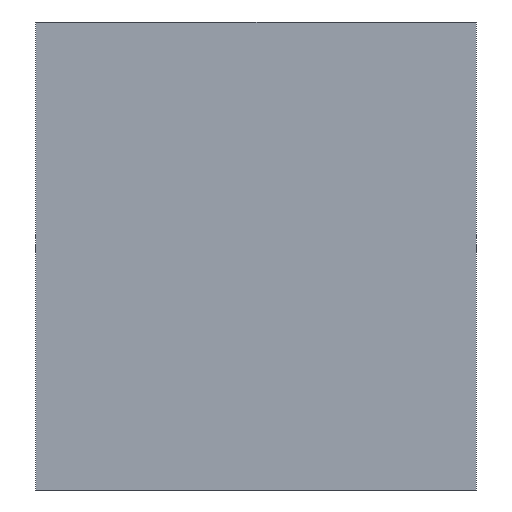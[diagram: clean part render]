
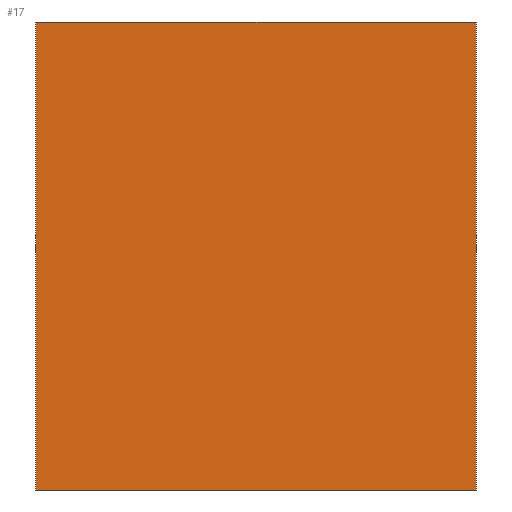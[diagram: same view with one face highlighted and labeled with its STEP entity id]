
A CAD part, left-side view. The second image highlights one B-rep face of the part: STEP entity #17.
In plain terms, the highlighted planar face has unit normal (-1, 0, 0).
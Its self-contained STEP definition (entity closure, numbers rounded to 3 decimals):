
#17 = ADVANCED_FACE('',(#18),#32,.F.);
#18 = FACE_BOUND('',#19,.F.);
#19 = EDGE_LOOP('',(#20,#55,#83,#111));
#20 = ORIENTED_EDGE('',*,*,#21,.F.);
#21 = EDGE_CURVE('',#22,#24,#26,.T.);
#22 = VERTEX_POINT('',#23);
#23 = CARTESIAN_POINT('',(227.,-44.,3.));
#24 = VERTEX_POINT('',#25);
#25 = CARTESIAN_POINT('',(227.,-44.,96.5));
#26 = SURFACE_CURVE('',#27,(#31,#43),.PCURVE_S1.);
#27 = LINE('',#28,#29);
#28 = CARTESIAN_POINT('',(227.,-44.,3.));
#29 = VECTOR('',#30,1.);
#30 = DIRECTION('',(0.,0.,1.));
#31 = PCURVE('',#32,#37);
#32 = PLANE('',#33);
#33 = AXIS2_PLACEMENT_3D('',#34,#35,#36);
#34 = CARTESIAN_POINT('',(227.,-44.,3.));
#35 = DIRECTION('',(1.,0.,0.));
#36 = DIRECTION('',(0.,0.,1.));
#37 = DEFINITIONAL_REPRESENTATION('',(#38),#42);
#38 = LINE('',#39,#40);
#39 = CARTESIAN_POINT('',(0.,0.));
#40 = VECTOR('',#41,1.);
#41 = DIRECTION('',(1.,0.));
#42 = ( GEOMETRIC_REPRESENTATION_CONTEXT(2) 
PARAMETRIC_REPRESENTATION_CONTEXT() REPRESENTATION_CONTEXT('2D SPACE',''
  ) );
#43 = PCURVE('',#44,#49);
#44 = PLANE('',#45);
#45 = AXIS2_PLACEMENT_3D('',#46,#47,#48);
#46 = CARTESIAN_POINT('',(227.,-44.,3.));
#47 = DIRECTION('',(0.,1.,0.));
#48 = DIRECTION('',(0.,0.,1.));
#49 = DEFINITIONAL_REPRESENTATION('',(#50),#54);
#50 = LINE('',#51,#52);
#51 = CARTESIAN_POINT('',(0.,0.));
#52 = VECTOR('',#53,1.);
#53 = DIRECTION('',(1.,0.));
#54 = ( GEOMETRIC_REPRESENTATION_CONTEXT(2) 
PARAMETRIC_REPRESENTATION_CONTEXT() REPRESENTATION_CONTEXT('2D SPACE',''
  ) );
#55 = ORIENTED_EDGE('',*,*,#56,.T.);
#56 = EDGE_CURVE('',#22,#57,#59,.T.);
#57 = VERTEX_POINT('',#58);
#58 = CARTESIAN_POINT('',(227.,44.,3.));
#59 = SURFACE_CURVE('',#60,(#64,#71),.PCURVE_S1.);
#60 = LINE('',#61,#62);
#61 = CARTESIAN_POINT('',(227.,-44.,3.));
#62 = VECTOR('',#63,1.);
#63 = DIRECTION('',(0.,1.,0.));
#64 = PCURVE('',#32,#65);
#65 = DEFINITIONAL_REPRESENTATION('',(#66),#70);
#66 = LINE('',#67,#68);
#67 = CARTESIAN_POINT('',(0.,0.));
#68 = VECTOR('',#69,1.);
#69 = DIRECTION('',(0.,-1.));
#70 = ( GEOMETRIC_REPRESENTATION_CONTEXT(2) 
PARAMETRIC_REPRESENTATION_CONTEXT() REPRESENTATION_CONTEXT('2D SPACE',''
  ) );
#71 = PCURVE('',#72,#77);
#72 = PLANE('',#73);
#73 = AXIS2_PLACEMENT_3D('',#74,#75,#76);
#74 = CARTESIAN_POINT('',(227.,-44.,3.));
#75 = DIRECTION('',(0.,0.,1.));
#76 = DIRECTION('',(1.,0.,0.));
#77 = DEFINITIONAL_REPRESENTATION('',(#78),#82);
#78 = LINE('',#79,#80);
#79 = CARTESIAN_POINT('',(0.,0.));
#80 = VECTOR('',#81,1.);
#81 = DIRECTION('',(0.,1.));
#82 = ( GEOMETRIC_REPRESENTATION_CONTEXT(2) 
PARAMETRIC_REPRESENTATION_CONTEXT() REPRESENTATION_CONTEXT('2D SPACE',''
  ) );
#83 = ORIENTED_EDGE('',*,*,#84,.T.);
#84 = EDGE_CURVE('',#57,#85,#87,.T.);
#85 = VERTEX_POINT('',#86);
#86 = CARTESIAN_POINT('',(227.,44.,96.5));
#87 = SURFACE_CURVE('',#88,(#92,#99),.PCURVE_S1.);
#88 = LINE('',#89,#90);
#89 = CARTESIAN_POINT('',(227.,44.,3.));
#90 = VECTOR('',#91,1.);
#91 = DIRECTION('',(0.,0.,1.));
#92 = PCURVE('',#32,#93);
#93 = DEFINITIONAL_REPRESENTATION('',(#94),#98);
#94 = LINE('',#95,#96);
#95 = CARTESIAN_POINT('',(0.,-88.));
#96 = VECTOR('',#97,1.);
#97 = DIRECTION('',(1.,0.));
#98 = ( GEOMETRIC_REPRESENTATION_CONTEXT(2) 
PARAMETRIC_REPRESENTATION_CONTEXT() REPRESENTATION_CONTEXT('2D SPACE',''
  ) );
#99 = PCURVE('',#100,#105);
#100 = PLANE('',#101);
#101 = AXIS2_PLACEMENT_3D('',#102,#103,#104);
#102 = CARTESIAN_POINT('',(227.,44.,3.));
#103 = DIRECTION('',(0.,1.,0.));
#104 = DIRECTION('',(0.,0.,1.));
#105 = DEFINITIONAL_REPRESENTATION('',(#106),#110);
#106 = LINE('',#107,#108);
#107 = CARTESIAN_POINT('',(0.,0.));
#108 = VECTOR('',#109,1.);
#109 = DIRECTION('',(1.,0.));
#110 = ( GEOMETRIC_REPRESENTATION_CONTEXT(2) 
PARAMETRIC_REPRESENTATION_CONTEXT() REPRESENTATION_CONTEXT('2D SPACE',''
  ) );
#111 = ORIENTED_EDGE('',*,*,#112,.F.);
#112 = EDGE_CURVE('',#24,#85,#113,.T.);
#113 = SURFACE_CURVE('',#114,(#118,#125),.PCURVE_S1.);
#114 = LINE('',#115,#116);
#115 = CARTESIAN_POINT('',(227.,-44.,96.5));
#116 = VECTOR('',#117,1.);
#117 = DIRECTION('',(0.,1.,0.));
#118 = PCURVE('',#32,#119);
#119 = DEFINITIONAL_REPRESENTATION('',(#120),#124);
#120 = LINE('',#121,#122);
#121 = CARTESIAN_POINT('',(93.5,0.));
#122 = VECTOR('',#123,1.);
#123 = DIRECTION('',(0.,-1.));
#124 = ( GEOMETRIC_REPRESENTATION_CONTEXT(2) 
PARAMETRIC_REPRESENTATION_CONTEXT() REPRESENTATION_CONTEXT('2D SPACE',''
  ) );
#125 = PCURVE('',#126,#131);
#126 = PLANE('',#127);
#127 = AXIS2_PLACEMENT_3D('',#128,#129,#130);
#128 = CARTESIAN_POINT('',(227.,-44.,96.5));
#129 = DIRECTION('',(0.,0.,1.));
#130 = DIRECTION('',(1.,0.,0.));
#131 = DEFINITIONAL_REPRESENTATION('',(#132),#136);
#132 = LINE('',#133,#134);
#133 = CARTESIAN_POINT('',(0.,0.));
#134 = VECTOR('',#135,1.);
#135 = DIRECTION('',(0.,1.));
#136 = ( GEOMETRIC_REPRESENTATION_CONTEXT(2) 
PARAMETRIC_REPRESENTATION_CONTEXT() REPRESENTATION_CONTEXT('2D SPACE',''
  ) );
